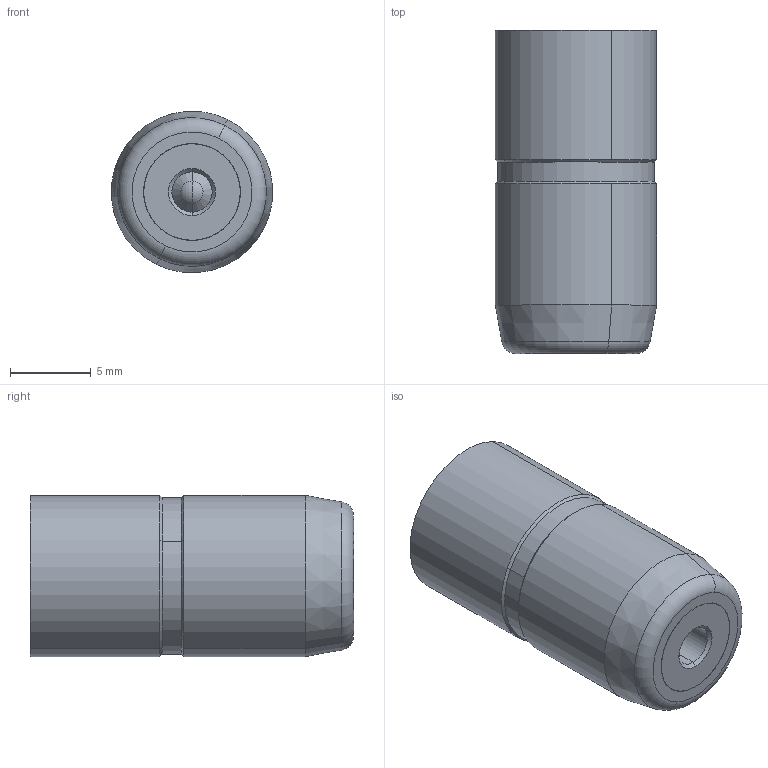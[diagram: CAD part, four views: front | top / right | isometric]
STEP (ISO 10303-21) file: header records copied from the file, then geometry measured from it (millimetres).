
FILE_DESCRIPTION (( 'STEP AP214' ), '1' );
FILE_NAME ('FP 105700.STEP', '2015-02-27T09:00:52', ( '' ), ( '' ), 'SwSTEP 2.0', 'SolidWorks 2014', '' );
FILE_SCHEMA (( 'AUTOMOTIVE_DESIGN' ));
Length unit declared in the file: millimetre
Products named in the file (6): FP 105700; IA 5717SF; FP 105700-1; 9FP 105700; FA 084700-2 comprimido; FA 105700-3
Assembly tree (5 placements, depth 2):
  FP 105700
    FP 105700-1
    IA 5717SF
    FA 105700-3
    FA 084700-2 comprimido
    9FP 105700
Bounding box: 9.98 x 20 x 9.98 mm (x, y, z)
Volume: 1383 mm3; surface area: 1736.9 mm2
Topology: 5 solids, 5 shells, 124 faces, 281 edges, 173 vertices
Faces by surface type: plane 43, cylinder 37, cone 28, torus 12, sphere 2, bspline 2
Entity records: 5163 total; most frequent: CARTESIAN_POINT 2056, DIRECTION 635, ORIENTED_EDGE 562, EDGE_CURVE 281, AXIS2_PLACEMENT_3D 260, VERTEX_POINT 173, EDGE_LOOP 140, CIRCLE 130
